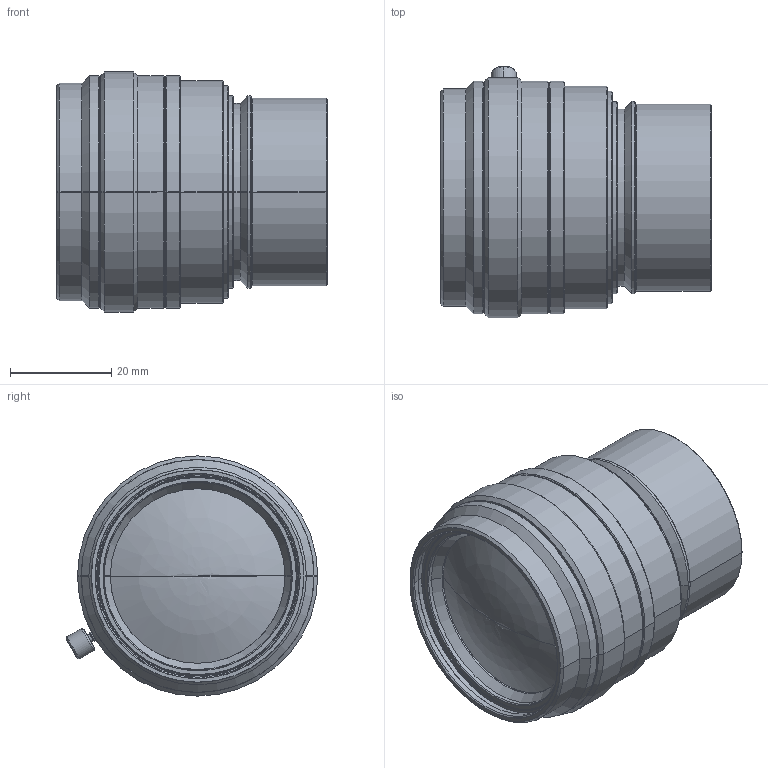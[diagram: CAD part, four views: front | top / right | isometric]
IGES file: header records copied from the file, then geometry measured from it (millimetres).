
Start section: SolidWorks IGES file using analytic representation for surfaces
Global section: file name: C:\Documents and Settings\Tsuji_vst\My Documents\図面\_3D\VS-L8540_V.IGS,1; native system: 5HSolidWorks 2012; preprocessor: SolidWorks 2012; author: Tsuji_vst; date: 131202.110635; units: millimetre
Bounding box: 53.5 x 49.74 x 47.5 mm (x, y, z)
Surface area: 12108 mm2 (no closed solid volume)
Topology: 0 solids, 0 shells, 126 faces, 2606 edges, 2604 vertices
Faces by surface type: revolution 108, bspline 18
